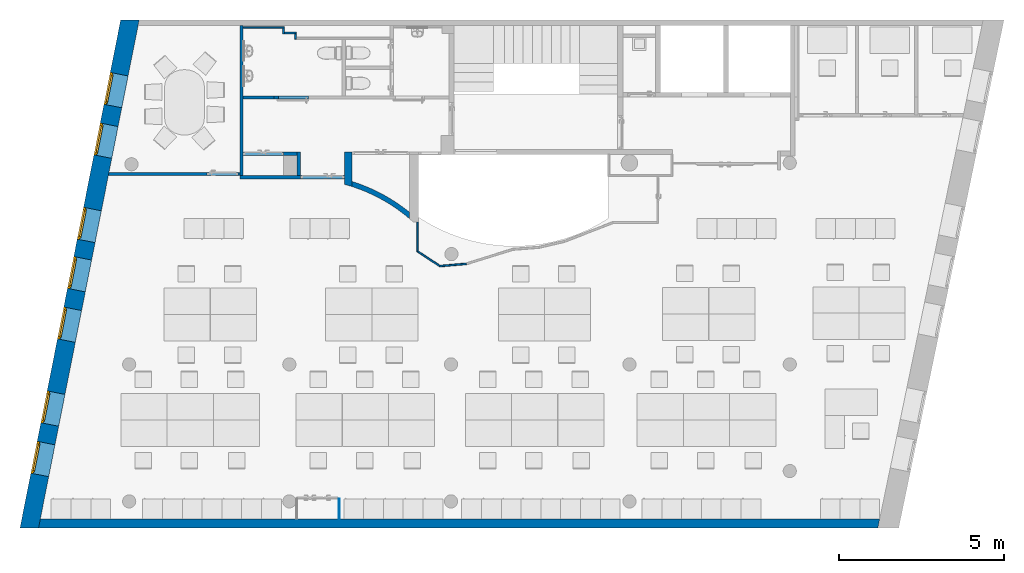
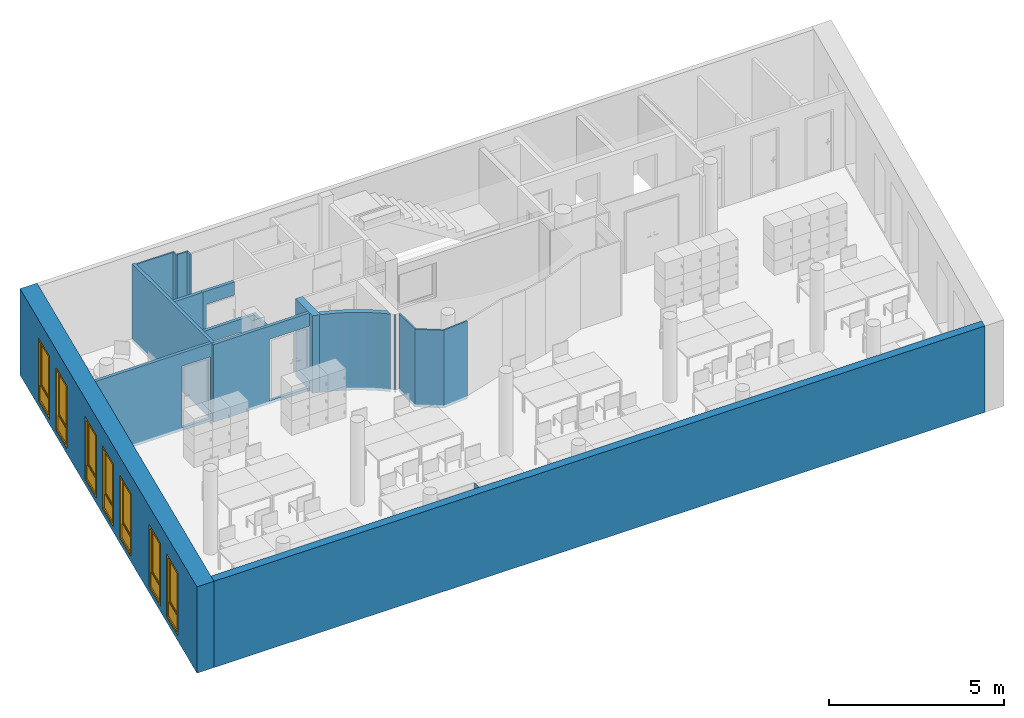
"""IFC4 building model written with IfcOpenShell, lengths in metres."""

import ifcopenshell
import ifcopenshell.guid

model = None  # the IFC model being written
_history = None  # IfcOwnerHistory: only IFC2X3 demands one
_inside = {}  # id of a spatial element -> (the spatial element, [elements in it])
_under = {}  # id of a project, library or spatial element -> (it, [spatial elements below it])
_declared = {}  # id of a project -> (the project, [libraries it declares])
_typed = {}  # id of a type object -> (the type object, [elements of that type])
_made_of = {}  # id of a material, layer set ... -> (it, [elements and type objects made of it])


def new_model(schema):
    """Start an empty IFC model of exactly this schema.

    Asked for "IFC4X3", IfcOpenShell would pick the latest addendum, in which some entities
    have other attributes; the version numbers below select the first issue.
    IFC2X3 requires an IfcOwnerHistory on every rooted entity: one is made here for all.
    """
    global model, _history
    if schema == "IFC4X3":
        model = ifcopenshell.file(schema_version=(4, 3, 0, 0))
    else:
        model = ifcopenshell.file(schema=schema)
    _inside.clear()
    _under.clear()
    _declared.clear()
    _typed.clear()
    _made_of.clear()
    _history = None
    if model.schema == "IFC2X3":
        org = make("IfcOrganization", Name="unknown")
        user = make(
            "IfcPersonAndOrganization",
            ThePerson=make("IfcPerson", FamilyName="unknown"),
            TheOrganization=org,
        )
        app = make(
            "IfcApplication",
            ApplicationDeveloper=org,
            Version="unknown",
            ApplicationFullName="unknown",
            ApplicationIdentifier="unknown",
        )
        _history = make(
            "IfcOwnerHistory",
            OwningUser=user,
            OwningApplication=app,
            ChangeAction="ADDED",
            CreationDate=0,
        )
    return model


def make(cls, **values):
    """One entity of the class cls with the attributes given. An attribute that is None is left unset."""
    return model.create_entity(
        cls, **{name: value for name, value in values.items() if value is not None}
    )


def entity(cls, *values):
    """Any entity or typed value of the class cls, its attributes in the order of the schema. None: left unset."""
    e = model.create_entity(cls)
    for i, value in enumerate(values):
        if value is not None:
            e[i] = value
    return e


def rooted(cls, **values):
    """An entity with a GlobalId (a new one), such as an element, a storey or a relation."""
    return make(cls, GlobalId=ifcopenshell.guid.new(), OwnerHistory=_history, **values)


def si_unit(unit_type, name, prefix=None):
    """IfcSIUnit, for example si_unit("LENGTHUNIT", "METRE", prefix="MILLI")."""
    return make("IfcSIUnit", UnitType=unit_type, Prefix=prefix, Name=name)


def converted_unit(unit_type, name, factor, base, dimensions=None, offset=None):
    """IfcConversionBasedUnit, such as the inch: factor (a typed value) times the base unit."""
    return make(
        "IfcConversionBasedUnit"
        if offset is None
        else "IfcConversionBasedUnitWithOffset",
        ConversionOffset=offset,
        Dimensions=None
        if dimensions is None
        else entity("IfcDimensionalExponents", *dimensions),
        UnitType=unit_type,
        Name=name,
        ConversionFactor=make(
            "IfcMeasureWithUnit", ValueComponent=factor, UnitComponent=base
        ),
    )


def derived_unit(unit_type, elements):
    """IfcDerivedUnit: a product of units, each with its exponent."""
    return make(
        "IfcDerivedUnit",
        Elements=[
            make("IfcDerivedUnitElement", Unit=unit, Exponent=power)
            for unit, power in elements
        ],
        UnitType=unit_type,
    )


def assignment(units):
    """IfcUnitAssignment: the units of a project."""
    return None if units is None else make("IfcUnitAssignment", Units=units)


def point(xyz):
    """IfcCartesianPoint."""
    return None if xyz is None else make("IfcCartesianPoint", Coordinates=xyz)


def direction(xyz):
    """IfcDirection."""
    return None if xyz is None else make("IfcDirection", DirectionRatios=xyz)


def frame(location, z_axis=None, x_axis=None):
    """IfcAxis2Placement3D, a coordinate frame: its origin and axes. An axis left out is left unset."""
    return make(
        "IfcAxis2Placement3D",
        Location=point(location),
        Axis=direction(z_axis),
        RefDirection=direction(x_axis),
    )


def frame_2d(location, x_axis=None):
    """IfcAxis2Placement2D, a coordinate frame in the plane: its origin and x axis."""
    return make(
        "IfcAxis2Placement2D", Location=point(location), RefDirection=direction(x_axis)
    )


def origin():
    """The frame at (0, 0, 0) with its axes left unset."""
    return frame((0.0, 0.0, 0.0))


def origin_with_axes():
    """The frame at (0, 0, 0) with the z axis (0, 0, 1) and the x axis (1, 0, 0) written out."""
    return frame((0.0, 0.0, 0.0), z_axis=(0.0, 0.0, 1.0), x_axis=(1.0, 0.0, 0.0))


def place(relative_to, where):
    """IfcLocalPlacement: puts the frame where relative to a parent placement (None: the world)."""
    return make(
        "IfcLocalPlacement", PlacementRelTo=relative_to, RelativePlacement=where
    )


def context(
    kind, dimensions, precision=None, world=None, true_north=None, identifier=None
):
    """IfcGeometricRepresentationContext, for example the 3D "Model" context."""
    return make(
        "IfcGeometricRepresentationContext",
        ContextIdentifier=identifier,
        ContextType=kind,
        CoordinateSpaceDimension=dimensions,
        Precision=precision,
        WorldCoordinateSystem=world,
        TrueNorth=true_north,
    )


def subcontext(parent, identifier, kind, view, scale=None):
    """IfcGeometricRepresentationSubContext, for example "Body" below "Model"."""
    return make(
        "IfcGeometricRepresentationSubContext",
        ContextIdentifier=identifier,
        ContextType=kind,
        ParentContext=parent,
        TargetScale=scale,
        TargetView=view,
    )


def project(units=None, contexts=None):
    """IfcProject with its units and contexts."""
    return rooted(
        "IfcProject",
        Name="project",
        RepresentationContexts=contexts,
        UnitsInContext=assignment(units),
    )


def spatial(cls, under=None, at=None, **own):
    """A site, building, storey or space (cls), placed at a placement, below another one or the project."""
    s = rooted(cls, ObjectPlacement=at, **own)
    if under is not None:
        _under.setdefault(under.id(), (under, []))[1].append(s)
    return s


def polyline(points):
    """IfcPolyline through the points."""
    return make("IfcPolyline", Points=[point(p) for p in points])


def profile(cls, at=None, kind="AREA", **sizes):
    """A parametric profile (cls). Its sizes go by their IFC names, for example OverallWidth=200.0."""
    return make(cls, ProfileType=kind, Position=at, **sizes)


def rectangle(**sizes):
    """IfcRectangleProfileDef."""
    return profile("IfcRectangleProfileDef", **sizes)


def outline(outer, holes=None, kind="AREA"):
    """IfcArbitraryClosedProfileDef: a profile drawn as a closed curve; with holes, ...WithVoids."""
    if holes is None:
        return make("IfcArbitraryClosedProfileDef", ProfileType=kind, OuterCurve=outer)
    return make(
        "IfcArbitraryProfileDefWithVoids",
        ProfileType=kind,
        OuterCurve=outer,
        InnerCurves=holes,
    )


def extrude(swept, where, along, depth):
    """IfcExtrudedAreaSolid: the profile swept, set in the frame where, extruded along a direction by depth."""
    return make(
        "IfcExtrudedAreaSolid",
        SweptArea=swept,
        Position=where,
        ExtrudedDirection=direction(along),
        Depth=depth,
    )


def faces_of(points, faces, orient=None, outer=None):
    """IfcFace entities. A face is a list of loops; a loop is a list of indices into points, from 0.

    orient and outer hold one flag for each loop. By default every Orientation is true, the
    first loop of a face is its IfcFaceOuterBound and the others are IfcFaceBound.
    """
    made = []
    for i, loops in enumerate(faces):
        bounds = []
        for j, loop in enumerate(loops):
            is_outer = j == 0 if outer is None else outer[i][j]
            bounds.append(
                make(
                    "IfcFaceOuterBound" if is_outer else "IfcFaceBound",
                    Bound=make("IfcPolyLoop", Polygon=[points[k] for k in loop]),
                    Orientation=True if orient is None else orient[i][j],
                )
            )
        made.append(make("IfcFace", Bounds=bounds))
    return made


def closed_shell(faces, orient=None, outer=None):
    """The faces of one IfcClosedShell. faceted_brep and surface_model build it on their shared points."""
    return ("IfcClosedShell", faces, orient, outer)


def open_shell(faces, orient=None, outer=None):
    """The faces of one IfcOpenShell. surface_model builds it on its shared points."""
    return ("IfcOpenShell", faces, orient, outer)


def surface_model(cls, points, shells):
    """IfcFaceBasedSurfaceModel or IfcShellBasedSurfaceModel (cls): surfaces that need not close."""
    shared = [point(p) for p in points]
    made = [make(c, CfsFaces=faces_of(shared, fs, o, b)) for c, fs, o, b in shells]
    if cls == "IfcFaceBasedSurfaceModel":
        return make(cls, FbsmFaces=made)
    return make(cls, SbsmBoundary=made)


def shape(context_of_items, identifier, shape_type, items):
    """IfcShapeRepresentation: the items that make up one representation, for example the "Body"."""
    return make(
        "IfcShapeRepresentation",
        ContextOfItems=context_of_items,
        RepresentationIdentifier=identifier,
        RepresentationType=shape_type,
        Items=items,
    )


def source(mapping_origin, context_of_items, identifier, shape_type, items):
    """IfcRepresentationMap: a shape defined once, which mapped items show again and again."""
    return make(
        "IfcRepresentationMap",
        MappingOrigin=mapping_origin,
        MappedRepresentation=shape(context_of_items, identifier, shape_type, items),
    )


def transform(
    local_origin,
    x_axis=None,
    y_axis=None,
    z_axis=None,
    scale=None,
    scale2=None,
    scale3=None,
    uniform=True,
):
    """IfcCartesianTransformationOperator3D, or its non-uniform kind. x_axis, y_axis, z_axis: its Axis1, 2, 3."""
    if uniform:
        return make(
            "IfcCartesianTransformationOperator3D",
            Axis1=direction(x_axis),
            Axis2=direction(y_axis),
            LocalOrigin=point(local_origin),
            Scale=scale,
            Axis3=direction(z_axis),
        )
    return make(
        "IfcCartesianTransformationOperator3DnonUniform",
        Axis1=direction(x_axis),
        Axis2=direction(y_axis),
        LocalOrigin=point(local_origin),
        Scale=scale,
        Axis3=direction(z_axis),
        Scale2=scale2,
        Scale3=scale3,
    )


def mapped(mapping_source, mapping_target):
    """IfcMappedItem: shows the shape of a source again, moved by a transform."""
    return make(
        "IfcMappedItem", MappingSource=mapping_source, MappingTarget=mapping_target
    )


def material(Name=None, Category=None):
    """IfcMaterial."""
    return make("IfcMaterial", Name=Name, Category=Category)


def layer(
    of_material, thickness, ventilated=None, Name=None, Category=None, Priority=None
):
    """IfcMaterialLayer: one layer of a wall or slab, of a material (None: an air gap)."""
    return make(
        "IfcMaterialLayer",
        Material=of_material,
        LayerThickness=thickness,
        IsVentilated=ventilated,
        Name=Name,
        Category=Category,
        Priority=Priority,
    )


def layer_set(layers, Name=None):
    """IfcMaterialLayerSet."""
    return make("IfcMaterialLayerSet", MaterialLayers=layers, LayerSetName=Name)


def layer_usage(for_layer_set, set_direction, sense, offset, extent=None):
    """IfcMaterialLayerSetUsage: how a layer set lies in its element."""
    return make(
        "IfcMaterialLayerSetUsage",
        ForLayerSet=for_layer_set,
        LayerSetDirection=set_direction,
        DirectionSense=sense,
        OffsetFromReferenceLine=offset,
        ReferenceExtent=extent,
    )


def made_of(thing, what):
    """Note that an element or type object is made of a material, layer set ...; save() writes the relation."""
    if what is not None:
        _made_of.setdefault(what.id(), (what, []))[1].append(thing)
    return thing


def type_object(cls, material=None, **own):
    """A type object (cls), such as IfcWallType, which elements share."""
    return made_of(rooted(cls, **own), material)


def element(
    cls,
    number,
    at=None,
    inside=None,
    cuts=None,
    type_object=None,
    material=None,
    context=None,
    identifier="Body",
    shape_type=None,
    held_by="IfcProductDefinitionShape",
    body=None,
    shapes=None,
    **own,
):
    """One element of the class cls, such as IfcWall. Its Tag is "e" and its number.

    at: its placement. inside: the storey or other place that contains it. cuts: it is an
    opening in that element (IfcRelVoidsElement). A single representation is given by context,
    identifier, shape_type and body (its items); several are given by shapes. held_by: the class
    of the entity that holds the representations. save() writes the other relations.
    """
    e = rooted(cls, Tag="e%d" % number, ObjectPlacement=at, **own)
    if body is not None:
        shapes = [shape(context, identifier, shape_type, body)]
    if shapes is not None:
        e.Representation = make(held_by, Representations=shapes)
    if inside is not None:
        _inside.setdefault(inside.id(), (inside, []))[1].append(e)
    if cuts is not None:
        rooted(
            "IfcRelVoidsElement", RelatingBuildingElement=cuts, RelatedOpeningElement=e
        )
    if type_object is not None:
        _typed.setdefault(type_object.id(), (type_object, []))[1].append(e)
    return made_of(e, material)


def fill(opening, filler):
    """IfcRelFillsElement: the door or window that sits in an opening."""
    return rooted(
        "IfcRelFillsElement",
        RelatingOpeningElement=opening,
        RelatedBuildingElement=filler,
    )


def aggregate(whole, parts):
    """IfcRelAggregates: a whole, such as a stair, and the parts it consists of."""
    return rooted("IfcRelAggregates", RelatingObject=whole, RelatedObjects=parts)


def save(model, path):
    """Write the relations noted so far, then the file.

    IfcRelAggregates (storeys below a building ...), IfcRelContainedInSpatialStructure (elements
    in a storey), IfcRelDefinesByType, IfcRelAssociatesMaterial and IfcRelDeclares: one each for
    every whole, place, type object, material and project.
    """
    for whole, parts in _under.values():
        aggregate(whole, parts)
    for where, things in _inside.values():
        rooted(
            "IfcRelContainedInSpatialStructure",
            RelatedElements=things,
            RelatingStructure=where,
        )
    for kind, things in _typed.values():
        rooted("IfcRelDefinesByType", RelatedObjects=things, RelatingType=kind)
    for what, things in _made_of.values():
        rooted("IfcRelAssociatesMaterial", RelatedObjects=things, RelatingMaterial=what)
    for by, libraries in _declared.values():
        rooted("IfcRelDeclares", RelatingContext=by, RelatedDefinitions=libraries)
    model.write(path)


model = new_model("IFC4")

# Units and contexts
model_context = context("Model", 3, precision=1e-05, world=origin())
body_context = subcontext(model_context, "Body", "Model", "MODEL_VIEW")
ifc_project = project(units=[si_unit("LENGTHUNIT", "METRE"), si_unit("AREAUNIT", "SQUARE_METRE"), si_unit("VOLUMEUNIT", "CUBIC_METRE"), si_unit("MASSUNIT", "GRAM", prefix="KILO"), converted_unit("PLANEANGLEUNIT", "DEGREE", entity("IfcPlaneAngleMeasure", 0.0174532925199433), si_unit("PLANEANGLEUNIT", "RADIAN"), dimensions=[0, 0, 0, 0, 0, 0, 0]), derived_unit("THERMALTRANSMITTANCEUNIT", [(si_unit("POWERUNIT", "WATT"), 1), (si_unit("THERMODYNAMICTEMPERATUREUNIT", "KELVIN"), -1), (si_unit("LENGTHUNIT", "METRE"), -2)]), derived_unit("VOLUMETRICFLOWRATEUNIT", [(si_unit("LENGTHUNIT", "METRE"), 3), (converted_unit("TIMEUNIT", "hour", entity("IfcTimeMeasure", 3600.0), si_unit("TIMEUNIT", "SECOND"), dimensions=[0, 0, 1, 0, 0, 0, 0]), -1), (si_unit("LENGTHUNIT", "METRE"), -1)])], contexts=[model_context])

# Building, storeys
building_placement = place(None, origin())
building = spatial("IfcBuilding", under=ifc_project, at=building_placement, Name="HABITATGE PLURIFAMILIAR", CompositionType="ELEMENT")
storey_1_placement = place(building_placement, frame((0.0, 0.0, 15.28)))
storey_1 = spatial("IfcBuildingStorey", under=building, at=storey_1_placement, Name="PLANTA QUARTA", CompositionType="ELEMENT", Elevation=15.28)
storey_2_placement = place(storey_1_placement, frame((0.0, 0.0, 12.27)))
storey_2 = spatial("IfcBuildingStorey", under=storey_1, at=storey_2_placement, Name="NOU", CompositionType="PARTIAL")

# Walls
ifc_material_1 = material()
ifc_layer_1 = layer(ifc_material_1, 0.1)
ifc_layer_set_1 = layer_set([ifc_layer_1])
ifc_layer_usage_1 = layer_usage(ifc_layer_set_1, "AXIS2", "POSITIVE", 0.0)
wall_1_placement = place(storey_2_placement, frame((404.436984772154, 23.5194598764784, -12.37), z_axis=(0.0, 0.0, 1.0), x_axis=(0.0, 1.0, 0.0)))
element("IfcWall", 1, at=wall_1_placement, inside=storey_2, material=ifc_layer_usage_1, Name="Evans P4", context=body_context, shape_type="SweptSolid", body=[
    extrude(rectangle(XDim=4.54878802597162, YDim=0.1, at=frame_2d((2.27439401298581, 0.05), x_axis=(1.0, 0.0))), origin_with_axes(), (0.0, 0.0, 1.0), 2.71),
])
ifc_material_2 = material()
ifc_layer_2 = layer(ifc_material_2, 0.100000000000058)
ifc_layer_set_2 = layer_set([ifc_layer_2])
ifc_layer_usage_2 = layer_usage(ifc_layer_set_2, "AXIS2", "POSITIVE", 0.0)
wall_2_placement = place(storey_2_placement, frame((406.176984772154, 23.5194598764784, -12.37), z_axis=(0.0, 0.0, 1.0), x_axis=(0.0, 1.0, 0.0)))
element("IfcWall", 2, at=wall_2_placement, inside=storey_2, material=ifc_layer_usage_2, Name="Evans P4", context=body_context, shape_type="SweptSolid", body=[
    extrude(rectangle(XDim=0.709999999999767, YDim=0.100000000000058, at=frame_2d((0.354999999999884, 0.0500000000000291), x_axis=(1.0, 0.0))), origin_with_axes(), (0.0, 0.0, 1.0), 2.71),
])

# Wall, opening
ifc_material_3 = material()
ifc_layer_3 = layer(ifc_material_3, 0.1)
ifc_layer_set_3 = layer_set([ifc_layer_3])
ifc_layer_usage_3 = layer_usage(ifc_layer_set_3, "AXIS2", "POSITIVE", 0.0)
wall_3_placement = place(storey_2_placement, frame((404.336984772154, 23.4194598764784, -12.37)))
wall_3 = element("IfcWall", 3, at=wall_3_placement, inside=storey_2, material=ifc_layer_usage_3, Name="Evans P4", context=body_context, shape_type="SweptSolid", body=[
    extrude(rectangle(XDim=3.16904787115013, YDim=0.1, at=frame_2d((1.58452393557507, 0.05), x_axis=(1.0, 0.0))), origin_with_axes(), (0.0, 0.0, 1.0), 2.71),
])
opening_1_placement = place(wall_3_placement, frame((1.84, 0.0, 0.1), z_axis=(0.0, 1.0, 0.0), x_axis=(0.0, 0.0, 1.0)))
element("IfcOpeningElement", 4, at=opening_1_placement, cuts=wall_3, Name="Vano porta P4", ObjectType="Opening", context=body_context, shape_type="SweptSolid", body=[
    extrude(outline(polyline([(2.15, 1.32904787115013), (2.15, 0.0), (0.0, 0.0), (0.0, 1.32904787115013), (2.15, 1.32904787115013)])), origin_with_axes(), (0.0, 0.0, 1.0), 0.1),
])

# Walls
ifc_material_4 = material()
ifc_layer_4 = layer(ifc_material_4, 0.05)
ifc_layer_set_4 = layer_set([ifc_layer_4])
ifc_layer_usage_4 = layer_usage(ifc_layer_set_4, "AXIS2", "POSITIVE", 0.0)
wall_4_placement = place(storey_2_placement, frame((405.996984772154, 27.8094598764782, -12.37), z_axis=(0.0, 0.0, 1.0), x_axis=(0.0, -1.0, 0.0)))
element("IfcWall", 5, at=wall_4_placement, inside=storey_2, material=ifc_layer_usage_4, Name="Evans P4", context=body_context, shape_type="SweptSolid", body=[
    extrude(rectangle(XDim=0.16, YDim=0.05, at=frame_2d((0.08, 0.025), x_axis=(1.0, 0.0))), origin_with_axes(), (0.0, 0.0, 1.0), 2.71),
])
ifc_material_5 = material()
ifc_layer_5 = layer(ifc_material_5, 0.05)
ifc_layer_set_5 = layer_set([ifc_layer_5])
ifc_layer_usage_5 = layer_usage(ifc_layer_set_5, "AXIS2", "POSITIVE", 0.0)
wall_5_placement = place(storey_2_placement, frame((405.686984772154, 27.8094598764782, -12.37)))
element("IfcWall", 6, at=wall_5_placement, inside=storey_2, material=ifc_layer_usage_5, Name="Evans P4", context=body_context, shape_type="SweptSolid", body=[
    extrude(rectangle(XDim=0.36, YDim=0.05, at=frame_2d((0.18, 0.025), x_axis=(1.0, 0.0))), origin_with_axes(), (0.0, 0.0, 1.0), 2.71),
])
ifc_material_6 = material()
ifc_layer_6 = layer(ifc_material_6, 0.05)
ifc_layer_set_6 = layer_set([ifc_layer_6])
ifc_layer_usage_6 = layer_usage(ifc_layer_set_6, "AXIS2", "POSITIVE", 0.0)
wall_6_placement = place(storey_2_placement, frame((405.636984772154, 27.9794598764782, -12.37), z_axis=(0.0, 0.0, 1.0), x_axis=(0.0, -1.0, 0.0)))
element("IfcWall", 7, at=wall_6_placement, inside=storey_2, material=ifc_layer_usage_6, Name="Evans P4", context=body_context, shape_type="SweptSolid", body=[
    extrude(rectangle(XDim=0.17, YDim=0.05, at=frame_2d((0.085, 0.025), x_axis=(1.0, 0.0))), origin_with_axes(), (0.0, 0.0, 1.0), 2.71),
])
ifc_material_7 = material()
ifc_layer_7 = layer(ifc_material_7, 0.05)
ifc_layer_set_7 = layer_set([ifc_layer_7])
ifc_layer_usage_7 = layer_usage(ifc_layer_set_7, "AXIS2", "POSITIVE", 0.0)
wall_7_placement = place(storey_2_placement, frame((404.436984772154, 27.9794598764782, -12.37)))
element("IfcWall", 8, at=wall_7_placement, inside=storey_2, material=ifc_layer_usage_7, Name="Evans P4", context=body_context, shape_type="SweptSolid", body=[
    extrude(rectangle(XDim=1.25, YDim=0.05, at=frame_2d((0.625, 0.025), x_axis=(1.0, 0.0))), origin_with_axes(), (0.0, 0.0, 1.0), 2.71),
])

# Wall, opening
ifc_material_8 = material()
ifc_layer_8 = layer(ifc_material_8, 0.1)
ifc_layer_set_8 = layer_set([ifc_layer_8])
ifc_layer_usage_8 = layer_usage(ifc_layer_set_8, "AXIS2", "POSITIVE", 0.0)
wall_8_placement = place(storey_2_placement, frame((406.076984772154, 24.2294598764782, -12.37), z_axis=(0.0, 0.0, 1.0), x_axis=(-1.0, 0.0, 0.0)))
wall_8 = element("IfcWall", 9, at=wall_8_placement, inside=storey_2, material=ifc_layer_usage_8, Name="Evans P4", context=body_context, shape_type="SweptSolid", body=[
    extrude(rectangle(XDim=1.63999999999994, YDim=0.1, at=frame_2d((0.819999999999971, 0.05), x_axis=(1.0, 0.0))), origin_with_axes(), (0.0, 0.0, 1.0), 2.71),
])
opening_2_placement = place(wall_8_placement, frame((1.63999999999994, 0.1, 0.1), z_axis=(0.0, -1.0, 0.0), x_axis=(0.0, 0.0, 1.0)))
element("IfcOpeningElement", 10, at=opening_2_placement, cuts=wall_8, Name="Vano porta P4", ObjectType="Opening", context=body_context, shape_type="SweptSolid", body=[
    extrude(outline(polyline([(2.15, 1.22999999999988), (2.15, 0.0), (0.0, 0.0), (0.0, 1.22999999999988), (2.15, 1.22999999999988)])), origin_with_axes(), (0.0, 0.0, 1.0), 0.1),
])

# Walls
wall_9_placement = place(storey_2_placement, frame((406.15894288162, 18.3102468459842, -12.37)))
element("IfcWall", 11, at=wall_9_placement, inside=storey_2, Name="Evans P4", context=body_context, shape_type="SweptSolid", body=[
    extrude(outline(polyline([(1.77578399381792, 0.0), (1.77578399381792, 0.195883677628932), (1.74125735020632, 0.224880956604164), (1.52091315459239, 0.391074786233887), (1.29217302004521, 0.54550892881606), (1.05566390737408, 0.687760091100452), (0.812034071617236, 0.817438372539), (0.561951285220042, 0.934188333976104), (0.306101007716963, 1.03768997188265), (0.04518450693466, 1.12765959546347), (0.0357840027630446, 1.13035963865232), (0.0357840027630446, 0.9742949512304), (0.0, 0.984572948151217), (0.253489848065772, 0.897164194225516), (0.502057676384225, 0.796608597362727), (0.745022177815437, 0.683181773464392), (0.981717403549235, 0.557194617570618), (1.21149458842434, 0.418992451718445), (1.43372392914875, 0.268954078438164), (1.64779631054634, 0.107490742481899), (1.77578399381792, 0.0)])), frame((1.54225789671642, 3.89932480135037, 0.0), z_axis=(0.0, 0.0, 1.0), x_axis=(1.0, 0.0, 0.0)), (0.0, 0.0, 1.0), 2.71),
    extrude(outline(polyline([(0.0, 0.0344852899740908), (0.0369482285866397, 0.0), (0.0387224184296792, 0.00196418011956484), (0.0, 0.0344852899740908)])), frame((3.39538287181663, 3.79988451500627, 0.0), z_axis=(0.0, 0.0, 1.0), x_axis=(1.0, 0.0, 0.0)), (0.0, 0.0, 1.0), 2.71),
])
ifc_material_9 = material()
ifc_layer_9 = layer(ifc_material_9, 0.05)
ifc_layer_set_9 = layer_set([ifc_layer_9])
ifc_layer_usage_9 = layer_usage(ifc_layer_set_9, "AXIS2", "POSITIVE", 0.0)
wall_10_placement = place(storey_2_placement, frame((409.746984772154, 21.2364835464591, -12.37), z_axis=(0.0, 0.0, 1.0), x_axis=(0.0, 1.0, 0.0)))
element("IfcWall", 12, at=wall_10_placement, inside=storey_2, material=ifc_layer_usage_9, Name="Mampara P4", context=body_context, shape_type="SweptSolid", body=[
    extrude(outline(polyline([(0.0268577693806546, -0.05), (0.899999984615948, -0.05), (0.899999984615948, 0.0), (0.0, 0.0), (0.0268577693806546, -0.05)])), frame((-0.0268577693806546, 0.05, 0.0), z_axis=(0.0, 0.0, 1.0), x_axis=(1.0, 0.0, 0.0)), (0.0, 0.0, 1.0), 2.71),
])
ifc_material_10 = material()
ifc_layer_10 = layer(ifc_material_10, 0.0499999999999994)
ifc_layer_set_10 = layer_set([ifc_layer_10])
ifc_layer_usage_10 = layer_usage(ifc_layer_set_10, "AXIS2", "POSITIVE", 0.0)
wall_11_placement = place(storey_2_placement, frame((410.386395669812, 20.7494598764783, -12.37), z_axis=(0.0, 0.0, 1.0), x_axis=(0.996349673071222, 0.0853658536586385, 0.0)))
element("IfcWall", 13, at=wall_11_placement, inside=storey_2, material=ifc_layer_usage_10, Name="Mampara P4", context=body_context, shape_type="SweptSolid", body=[
    extrude(outline(polyline([(0.0, 0.0), (0.820006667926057, 0.0), (0.814575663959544, 0.0499999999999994), (0.0175191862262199, 0.049999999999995), (0.0, 0.0)])), origin_with_axes(), (0.0, 0.0, 1.0), 2.71),
])
ifc_material_11 = material()
ifc_layer_11 = layer(ifc_material_11, 0.0500000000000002)
ifc_layer_set_11 = layer_set([ifc_layer_11])
ifc_layer_usage_11 = layer_usage(ifc_layer_set_11, "AXIS2", "POSITIVE", 0.0)
wall_12_placement = place(storey_2_placement, frame((409.696984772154, 21.2096257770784, -12.37), z_axis=(0.0, 0.0, 1.0), x_axis=(0.831739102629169, -0.555166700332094, 0.0)))
element("IfcWall", 14, at=wall_12_placement, inside=storey_2, material=ifc_layer_usage_11, Name="Mampara P4", context=body_context, shape_type="SweptSolid", body=[
    extrude(outline(polyline([(-0.255468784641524, 0.3827379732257), (0.573410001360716, 0.3827379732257), (0.555890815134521, 0.4327379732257), (-0.228844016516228, 0.432737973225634), (-0.255468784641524, 0.3827379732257)])), frame((0.255468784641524, -0.3827379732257, 0.0), z_axis=(0.0, 0.0, 1.0), x_axis=(1.0, 0.0, 0.0)), (0.0, 0.0, 1.0), 2.71),
])
ifc_material_12 = material()
ifc_layer_12 = layer(ifc_material_12, 0.1)
ifc_layer_set_12 = layer_set([ifc_layer_12])
ifc_layer_usage_12 = layer_usage(ifc_layer_set_12, "AXIS2", "POSITIVE", 0.0)
wall_13_placement = place(storey_2_placement, frame((404.436984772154, 25.8294598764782, -12.37)))
element("IfcWall", 15, at=wall_13_placement, inside=storey_2, material=ifc_layer_usage_12, Name="Evans P4", context=body_context, shape_type="SweptSolid", body=[
    extrude(rectangle(XDim=0.936129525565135, YDim=0.1, at=frame_2d((0.468064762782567, 0.05), x_axis=(1.0, 0.0))), origin_with_axes(), (0.0, 0.0, 1.0), 2.71),
])
ifc_material_13 = material()
ifc_layer_13 = layer(ifc_material_13, 0.23)
ifc_layer_set_13 = layer_set([ifc_layer_13])
ifc_layer_usage_13 = layer_usage(ifc_layer_set_13, "AXIS2", "POSITIVE", 0.0)
wall_14_placement = place(storey_2_placement, frame((407.736984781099, 23.183866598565, -12.37), z_axis=(0.0, 0.0, 1.0), x_axis=(0.0, 1.0, 0.0)))
element("IfcWall", 16, at=wall_14_placement, inside=storey_2, material=ifc_layer_usage_13, Name="Evans P4", context=body_context, shape_type="SweptSolid", body=[
    extrude(outline(polyline([(0.0, -0.23), (1.0455932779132, -0.23), (1.0455932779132, 0.0), (0.0660613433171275, 0.0), (0.0, -0.23)])), frame((0.0, 0.23, 0.0), z_axis=(0.0, 0.0, 1.0), x_axis=(1.0, 0.0, 0.0)), (0.0, 0.0, 1.0), 2.71),
])
ifc_material_14 = material()
ifc_layer_14 = layer(ifc_material_14, 0.27)
ifc_layer_set_14 = layer_set([ifc_layer_14])
ifc_layer_usage_14 = layer_usage(ifc_layer_set_14, "AXIS2", "POSITIVE", 0.0)
wall_15_placement = place(storey_2_placement, frame((398.241734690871, 12.8406121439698, -12.37)))
element("IfcWall", 17, at=wall_15_placement, inside=storey_2, material=ifc_layer_usage_14, Name="Mur P4", context=body_context, shape_type="SweptSolid", body=[
    extrude(outline(polyline([(0.0, 0.0), (25.4157474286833, 0.0), (25.4717020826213, 0.27), (0.0534940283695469, 0.27), (0.0, 0.0)])), origin_with_axes(), (0.0, 0.0, 1.0), 3.01),
])

# Wall, openings, doors
ifc_material_15 = material()
ifc_layer_15 = layer(ifc_material_15, 0.549996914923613)
ifc_layer_set_15 = layer_set([ifc_layer_15])
ifc_layer_usage_15 = layer_usage(ifc_layer_set_15, "AXIS2", "POSITIVE", 0.0)
wall_16_placement = place(storey_2_placement, frame((400.729735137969, 28.22824790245, -12.37), z_axis=(0.0, 0.0, 1.0), x_axis=(-0.194348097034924, -0.98093262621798, 0.0)))
wall_16 = element("IfcWall", 18, at=wall_16_placement, inside=storey_2, material=ifc_layer_usage_15, Name="Façana nord-oest P4", context=body_context, shape_type="SweptSolid", body=[
    extrude(outline(polyline([(-15.523630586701, -1.98766597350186e-07), (0.0, 0.0), (-0.108968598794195, 0.549996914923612), (-15.7957098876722, 0.549999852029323), (-15.6867407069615, 0.0), (-15.523630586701, -1.98766597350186e-07)])), frame((15.6867407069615, 0.0, 0.0), z_axis=(0.0, 0.0, 1.0), x_axis=(1.0, 0.0, 0.0)), (0.0, 0.0, 1.0), 3.01),
])
opening_3_placement = place(wall_16_placement, frame((1.61911502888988, -1.80123763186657e-07, 0.19), z_axis=(-1.28040885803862e-08, 1.0, 0.0), x_axis=(0.0, 0.0, 1.0)))
opening_3 = element("IfcOpeningElement", 19, at=opening_3_placement, cuts=wall_16, Name="Vano finestra P4", ObjectType="Opening", context=body_context, shape_type="SweptSolid", body=[
    extrude(outline(polyline([(2.19, 0.983523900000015), (2.19, 0.0), (0.0, 0.0), (0.0, 0.983523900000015), (2.19, 0.983523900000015)])), origin_with_axes(), (0.0, 0.0, 1.0), 0.54999970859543),
])
opening_4_placement = place(wall_16_placement, frame((11.4493641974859, -5.42559732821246e-08, 0.19), z_axis=(-1.28041107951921e-08, 1.0, 0.0), x_axis=(0.0, 0.0, 1.0)))
opening_4 = element("IfcOpeningElement", 20, at=opening_4_placement, cuts=wall_16, Name="Vano finestra P4", ObjectType="Opening", context=body_context, shape_type="SweptSolid", body=[
    extrude(outline(polyline([(2.19, 0.983524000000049), (2.19, 0.0), (0.0, 0.0), (0.0, 0.983524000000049), (2.19, 0.983524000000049)])), origin_with_axes(), (0.0, 0.0, 1.0), 0.549997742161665),
])
opening_5_placement = place(wall_16_placement, frame((5.78243662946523, -1.26816093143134e-07, 0.19), z_axis=(-1.28041125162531e-08, 1.0, 0.0), x_axis=(0.0, 0.0, 1.0)))
opening_5 = element("IfcOpeningElement", 21, at=opening_5_placement, cuts=wall_16, Name="Vano finestra P4", ObjectType="Opening", context=body_context, shape_type="SweptSolid", body=[
    extrude(outline(polyline([(2.19, 0.983524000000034), (2.19, 0.0), (0.0, 0.0), (0.0, 0.983524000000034), (2.19, 0.983524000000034)])), origin_with_axes(), (0.0, 0.0, 1.0), 0.54999887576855),
])
opening_6_placement = place(wall_16_placement, frame((8.86007217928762, -8.74095946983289e-08, 0.19), z_axis=(-1.28041152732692e-08, 1.0, 0.0), x_axis=(0.0, 0.0, 1.0)))
opening_6 = element("IfcOpeningElement", 22, at=opening_6_placement, cuts=wall_16, Name="Vano finestra P4", ObjectType="Opening", context=body_context, shape_type="SweptSolid", body=[
    extrude(outline(polyline([(2.19, 0.983524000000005), (2.19, 0.0), (0.0, 0.0), (0.0, 0.983524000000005), (2.19, 0.983524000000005)])), origin_with_axes(), (0.0, 0.0, 1.0), 0.549998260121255),
])
opening_7_placement = place(wall_16_placement, frame((7.30221261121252, -1.0735666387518e-07, 0.19), z_axis=(-1.28040617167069e-08, 1.0, 0.0), x_axis=(0.0, 0.0, 1.0)))
opening_7 = element("IfcOpeningElement", 23, at=opening_7_placement, cuts=wall_16, Name="Vano finestra P4", ObjectType="Opening", context=body_context, shape_type="SweptSolid", body=[
    extrude(outline(polyline([(2.19, 0.983524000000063), (2.19, 0.0), (0.0, 0.0), (0.0, 0.983524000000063), (2.19, 0.983524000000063)])), origin_with_axes(), (0.0, 0.0, 1.0), 0.549998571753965),
])
opening_8_placement = place(wall_16_placement, frame((3.18071577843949, -1.6012887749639e-07, 0.19), z_axis=(-1.28041243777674e-08, 1.0, 0.0), x_axis=(0.0, 0.0, 1.0)))
opening_8 = element("IfcOpeningElement", 24, at=opening_8_placement, cuts=wall_16, Name="Vano finestra P4", ObjectType="Opening", context=body_context, shape_type="SweptSolid", body=[
    extrude(outline(polyline([(2.19, 0.983524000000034), (2.19, 0.0), (0.0, 0.0), (0.0, 0.983524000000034), (2.19, 0.983524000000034)])), origin_with_axes(), (0.0, 0.0, 1.0), 0.549999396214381),
])
opening_9_placement = place(wall_16_placement, frame((13.007223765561, -3.43089031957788e-08, 0.19), z_axis=(-1.28041048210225e-08, 1.0, 0.0), x_axis=(0.0, 0.0, 1.0)))
opening_9 = element("IfcOpeningElement", 25, at=opening_9_placement, cuts=wall_16, Name="Vano finestra P4", ObjectType="Opening", context=body_context, shape_type="SweptSolid", body=[
    extrude(outline(polyline([(2.19, 0.983524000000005), (2.19, 0.0), (0.0, 0.0), (0.0, 0.983524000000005), (2.19, 0.983524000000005)])), origin_with_axes(), (0.0, 0.0, 1.0), 0.549997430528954),
])
door_type_1 = type_object("IfcDoorType", Name="Finestra P4", OperationType="NOTDEFINED", ParameterTakesPrecedence=False, PredefinedType="DOOR")
shared_shape = source(origin_with_axes(), body_context, "Body", "SurfaceModel", [
    surface_model("IfcShellBasedSurfaceModel", [(0.0, 0.0700000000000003, 2.19), (0.0, 0.07, 0.0), (0.07, 0.07, 0.0), (0.07, 0.0700000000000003, 2.19), (0.0, 0.0, 0.0), (0.0, 0.0, 2.19), (0.07, 0.0, 2.19), (0.07, 0.0, 0.0)], [closed_shell([[[0, 1, 2, 3]], [[4, 5, 6, 7]], [[1, 0, 5, 4]], [[2, 1, 4, 7]], [[3, 2, 7, 6]], [[0, 3, 6, 5]]], orient=[[False], [False], [False], [False], [False], [False]])]),
    surface_model("IfcShellBasedSurfaceModel", [(0.913524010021, 0.0700000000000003, 2.19), (0.913524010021, 0.07, 0.0), (0.983524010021, 0.07, 0.0), (0.983524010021, 0.0700000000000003, 2.19), (0.913524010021, 0.0, 0.0), (0.913524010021, 0.0, 2.19), (0.983524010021, 0.0, 2.19), (0.983524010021, 0.0, 0.0)], [closed_shell([[[0, 1, 2, 3]], [[4, 5, 6, 7]], [[1, 0, 5, 4]], [[2, 1, 4, 7]], [[3, 2, 7, 6]], [[0, 3, 6, 5]]], orient=[[False], [False], [False], [False], [False], [False]])]),
    surface_model("IfcShellBasedSurfaceModel", [(0.07, 0.07, 0.07), (0.07, 0.07, 0.0), (0.913524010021, 0.07, 0.0), (0.913524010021, 0.07, 0.07), (0.07, 0.0, 0.0), (0.07, 0.0, 0.07), (0.913524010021, 0.0, 0.07), (0.913524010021, 0.0, 0.0)], [closed_shell([[[0, 1, 2, 3]], [[4, 5, 6, 7]], [[1, 0, 5, 4]], [[2, 1, 4, 7]], [[3, 2, 7, 6]], [[0, 3, 6, 5]]], orient=[[False], [False], [False], [False], [False], [False]])]),
    surface_model("IfcShellBasedSurfaceModel", [(0.07, 0.0700000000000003, 2.19), (0.07, 0.0700000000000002, 2.12), (0.913524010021, 0.0700000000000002, 2.12), (0.913524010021, 0.0700000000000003, 2.19), (0.07, 0.0, 2.12), (0.07, 0.0, 2.19), (0.913524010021, 0.0, 2.19), (0.913524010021, 0.0, 2.12)], [closed_shell([[[0, 1, 2, 3]], [[4, 5, 6, 7]], [[1, 0, 5, 4]], [[2, 1, 4, 7]], [[3, 2, 7, 6]], [[0, 3, 6, 5]]], orient=[[False], [False], [False], [False], [False], [False]])]),
    surface_model("IfcShellBasedSurfaceModel", [(0.07, 0.035, 0.07), (0.913524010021, 0.035, 0.07), (0.913524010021, 0.0350000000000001, 0.57), (0.07, 0.0350000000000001, 0.57)], [open_shell([[[0, 1, 2, 3]]], orient=[[False]])]),
    surface_model("IfcShellBasedSurfaceModel", [(0.05, 0.1, 2.14), (0.05, 0.1, 0.551), (0.1, 0.1, 0.551), (0.1, 0.1, 2.14), (0.05, 0.0500000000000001, 0.551), (0.05, 0.0500000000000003, 2.14), (0.1, 0.0500000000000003, 2.14), (0.1, 0.0500000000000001, 0.551)], [closed_shell([[[0, 1, 2, 3]], [[4, 5, 6, 7]], [[1, 0, 5, 4]], [[2, 1, 4, 7]], [[3, 2, 7, 6]], [[0, 3, 6, 5]]], orient=[[False], [False], [False], [False], [False], [False]])]),
    surface_model("IfcShellBasedSurfaceModel", [(0.883524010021, 0.1, 2.14), (0.883524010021, 0.1, 0.551), (0.933524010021, 0.1, 0.551), (0.933524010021, 0.1, 2.14), (0.883524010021, 0.0500000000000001, 0.551), (0.883524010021, 0.0500000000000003, 2.14), (0.933524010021, 0.0500000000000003, 2.14), (0.933524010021, 0.0500000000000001, 0.551)], [closed_shell([[[0, 1, 2, 3]], [[4, 5, 6, 7]], [[1, 0, 5, 4]], [[2, 1, 4, 7]], [[3, 2, 7, 6]], [[0, 3, 6, 5]]], orient=[[False], [False], [False], [False], [False], [False]])]),
    surface_model("IfcShellBasedSurfaceModel", [(0.1, 0.1, 0.601), (0.1, 0.1, 0.551), (0.883524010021, 0.1, 0.551), (0.883524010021, 0.1, 0.601), (0.1, 0.0500000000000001, 0.551), (0.1, 0.0500000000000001, 0.601), (0.883524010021, 0.0500000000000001, 0.601), (0.883524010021, 0.0500000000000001, 0.551)], [closed_shell([[[0, 1, 2, 3]], [[4, 5, 6, 7]], [[1, 0, 5, 4]], [[2, 1, 4, 7]], [[3, 2, 7, 6]], [[0, 3, 6, 5]]], orient=[[False], [False], [False], [False], [False], [False]])]),
    surface_model("IfcShellBasedSurfaceModel", [(0.1, 0.1, 2.14), (0.1, 0.1, 2.09), (0.883524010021, 0.1, 2.09), (0.883524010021, 0.1, 2.14), (0.1, 0.0500000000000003, 2.09), (0.1, 0.0500000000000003, 2.14), (0.883524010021, 0.0500000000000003, 2.14), (0.883524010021, 0.0500000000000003, 2.09)], [closed_shell([[[0, 1, 2, 3]], [[4, 5, 6, 7]], [[1, 0, 5, 4]], [[2, 1, 4, 7]], [[3, 2, 7, 6]], [[0, 3, 6, 5]]], orient=[[False], [False], [False], [False], [False], [False]])]),
    surface_model("IfcShellBasedSurfaceModel", [(0.1, 0.0750000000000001, 0.601), (0.883524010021, 0.0750000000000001, 0.601), (0.883524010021, 0.0750000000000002, 2.09), (0.1, 0.0750000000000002, 2.09)], [open_shell([[[0, 1, 2, 3]]], orient=[[False]])]),
])
door_1_placement = place(opening_3_placement, frame((0.0, 0.0, 0.0), z_axis=(1.0, 0.0, 0.0), x_axis=(0.0, 1.00000000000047, 1.01946229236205e-13)))
door_1 = element("IfcDoor", 26, at=door_1_placement, inside=storey_2, type_object=door_type_1, Name="Finestra P4", OverallHeight=2.19, OverallWidth=0.98352, context=body_context, shape_type="MappedRepresentation", body=[
    mapped(shared_shape, transform((0.0, 0.0, 0.0), x_axis=(1.0, 0.0, 0.0), y_axis=(0.0, 1.0, 0.0), z_axis=(0.0, 0.0, 1.0), scale=1.00000000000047)),
])
fill(opening_3, door_1)
door_type_2 = type_object("IfcDoorType", Name="Finestra P4", OperationType="NOTDEFINED", ParameterTakesPrecedence=False, PredefinedType="DOOR")
door_2_placement = place(opening_4_placement, frame((0.0, 0.0, 0.0), z_axis=(1.0, 0.0, 0.0), x_axis=(0.0, 1.0, -4.72399896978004e-14)))
door_2 = element("IfcDoor", 27, at=door_2_placement, inside=storey_2, type_object=door_type_2, Name="Finestra P4", OverallHeight=2.19, OverallWidth=0.98352, context=body_context, shape_type="MappedRepresentation", body=[
    mapped(shared_shape, transform((0.0, 0.0, 0.0), x_axis=(1.0, 0.0, 0.0), y_axis=(0.0, 1.0, 0.0), z_axis=(0.0, 0.0, 1.0), scale=1.0)),
])
fill(opening_4, door_2)
door_type_3 = type_object("IfcDoorType", Name="Finestra P4", OperationType="NOTDEFINED", ParameterTakesPrecedence=False, PredefinedType="DOOR")
door_3_placement = place(opening_5_placement, frame((0.0, 0.0, 0.0), z_axis=(1.0, 0.0, 0.0), x_axis=(0.0, 1.0, -5.91748872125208e-14)))
door_3 = element("IfcDoor", 28, at=door_3_placement, inside=storey_2, type_object=door_type_3, Name="Finestra P4", OverallHeight=2.19, OverallWidth=0.98352, context=body_context, shape_type="MappedRepresentation", body=[
    mapped(shared_shape, transform((0.0, 0.0, 0.0), x_axis=(1.0, 0.0, 0.0), y_axis=(0.0, 1.0, 0.0), z_axis=(0.0, 0.0, 1.0), scale=1.0)),
])
fill(opening_5, door_3)
door_type_4 = type_object("IfcDoorType", Name="Finestra P4", OperationType="NOTDEFINED", ParameterTakesPrecedence=False, PredefinedType="DOOR")
door_4_placement = place(opening_6_placement, frame((0.0, 0.0, 0.0), z_axis=(1.0, 0.0, 0.0), x_axis=(0.0, 1.0, 4.50750547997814e-14)))
door_4 = element("IfcDoor", 29, at=door_4_placement, inside=storey_2, type_object=door_type_4, Name="Finestra P4", OverallHeight=2.19, OverallWidth=0.98352, context=body_context, shape_type="MappedRepresentation", body=[
    mapped(shared_shape, transform((0.0, 0.0, 0.0), x_axis=(1.0, 0.0, 0.0), y_axis=(0.0, 1.0, 0.0), z_axis=(0.0, 0.0, 1.0), scale=1.0)),
])
fill(opening_6, door_4)
door_type_5 = type_object("IfcDoorType", Name="Finestra P4", OperationType="NOTDEFINED", ParameterTakesPrecedence=False, PredefinedType="DOOR")
door_5_placement = place(opening_7_placement, frame((0.0, 0.0, 0.0), z_axis=(1.0, 0.0, 0.0), x_axis=(0.0, 0.999999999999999, 1.06636921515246e-13)))
door_5 = element("IfcDoor", 30, at=door_5_placement, inside=storey_2, type_object=door_type_5, Name="Finestra P4", OverallHeight=2.19, OverallWidth=0.98352, context=body_context, shape_type="MappedRepresentation", body=[
    mapped(shared_shape, transform((0.0, 0.0, 0.0), x_axis=(1.0, 0.0, 0.0), y_axis=(0.0, 1.0, 0.0), z_axis=(0.0, 0.0, 1.0), scale=0.999999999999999)),
])
fill(opening_7, door_5)
door_type_6 = type_object("IfcDoorType", Name="Finestra P4", OperationType="NOTDEFINED", ParameterTakesPrecedence=False, PredefinedType="DOOR")
door_6_placement = place(opening_8_placement, frame((0.0, 0.0, 0.0), z_axis=(1.0, 0.0, 0.0), x_axis=(0.0, 1.0, 2.63677968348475e-15)))
door_6 = element("IfcDoor", 31, at=door_6_placement, inside=storey_2, type_object=door_type_6, Name="Finestra P4", OverallHeight=2.19, OverallWidth=0.98352, context=body_context, shape_type="MappedRepresentation", body=[
    mapped(shared_shape, transform((0.0, 0.0, 0.0), x_axis=(1.0, 0.0, 0.0), y_axis=(0.0, 1.0, 0.0), z_axis=(0.0, 0.0, 1.0), scale=1.0)),
])
fill(opening_8, door_6)
door_type_7 = type_object("IfcDoorType", Name="Finestra P4", OperationType="NOTDEFINED", ParameterTakesPrecedence=False, PredefinedType="DOOR")
door_7_placement = place(opening_9_placement, frame((0.0, 0.0, 0.0), z_axis=(1.0, 0.0, 0.0), x_axis=(0.0, 1.0, -5.05984143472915e-14)))
door_7 = element("IfcDoor", 32, at=door_7_placement, inside=storey_2, type_object=door_type_7, Name="Finestra P4", OverallHeight=2.19, OverallWidth=0.98352, context=body_context, shape_type="MappedRepresentation", body=[
    mapped(shared_shape, transform((0.0, 0.0, 0.0), x_axis=(1.0, 0.0, 0.0), y_axis=(0.0, 1.0, 0.0), z_axis=(0.0, 0.0, 1.0), scale=1.0)),
])
fill(opening_9, door_7)

# Wall
ifc_material_16 = material()
ifc_layer_16 = layer(ifc_material_16, 0.025)
ifc_layer_set_16 = layer_set([ifc_layer_16])
ifc_layer_usage_16 = layer_usage(ifc_layer_set_16, "AXIS2", "POSITIVE", 0.0)
wall_17_placement = place(storey_2_placement, frame((407.361610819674, 13.1206121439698, -12.32), z_axis=(0.0, 0.0, 1.0), x_axis=(0.0, 1.0, 0.0)))
element("IfcWall", 33, at=wall_17_placement, inside=storey_2, material=ifc_layer_usage_16, Name="Evans PA", context=body_context, shape_type="SweptSolid", body=[
    extrude(rectangle(XDim=0.612524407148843, YDim=0.025, at=frame_2d((0.306262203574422, 0.0125), x_axis=(1.0, 0.0))), origin_with_axes(), (0.0, 0.0, 1.0), 2.66),
])

# Wall, opening
ifc_material_17 = material()
ifc_layer_17 = layer(ifc_material_17, 0.1)
ifc_layer_set_17 = layer_set([ifc_layer_17])
ifc_layer_usage_17 = layer_usage(ifc_layer_set_17, "AXIS2", "POSITIVE", 0.0)
wall_18_placement = place(storey_2_placement, frame((405.373114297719, 25.8294598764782, -12.37)))
wall_18 = element("IfcWall", 34, at=wall_18_placement, inside=storey_2, material=ifc_layer_usage_17, Name="Evans P4", context=body_context, shape_type="SweptSolid", body=[
    extrude(rectangle(XDim=1.04208327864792, YDim=0.1, at=frame_2d((0.521041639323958, 0.05), x_axis=(1.0, 0.0))), origin_with_axes(), (0.0, 0.0, 1.0), 2.71),
])
opening_10_placement = place(wall_18_placement, frame((1.04208327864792, 0.1, 0.1), z_axis=(0.0, -1.0, 0.0), x_axis=(0.0, 0.0, 1.0)))
element("IfcOpeningElement", 35, at=opening_10_placement, cuts=wall_18, Name="Vano porta P4", ObjectType="Opening", context=body_context, shape_type="SweptSolid", body=[
    extrude(outline(polyline([(2.15, 0.9), (2.15, 0.0), (0.0, 0.0), (0.0, 0.9), (2.15, 0.9)])), origin_with_axes(), (0.0, 0.0, 1.0), 0.1),
])

ifc_material_18 = material()
ifc_layer_18 = layer(ifc_material_18, 0.1)
ifc_layer_set_18 = layer_set([ifc_layer_18])
ifc_layer_usage_18 = layer_usage(ifc_layer_set_18, "AXIS2", "POSITIVE", 0.0)
wall_19_placement = place(storey_2_placement, frame((404.336984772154, 23.6146518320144, -12.37), z_axis=(0.0, 0.0, 1.0), x_axis=(-1.0, 0.0, 0.0)))
wall_19 = element("IfcWall", 36, at=wall_19_placement, inside=storey_2, material=ifc_layer_usage_18, Name="Mampara P4", context=body_context, shape_type="SweptSolid", body=[
    extrude(outline(polyline([(-3.98044496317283, -0.1), (-0.0198126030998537, -0.1), (0.0, 0.0), (-3.98044496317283, 0.0), (-3.98044496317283, -0.1)])), frame((3.98044496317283, 0.1, 0.0), z_axis=(0.0, 0.0, 1.0), x_axis=(1.0, 0.0, 0.0)), (0.0, 0.0, 1.0), 2.71),
])
opening_11_placement = place(wall_19_placement, frame((0.05, 0.0, 0.1), z_axis=(0.0, 1.0, 0.0), x_axis=(0.0, 0.0, 1.0)))
element("IfcOpeningElement", 37, at=opening_11_placement, cuts=wall_19, Name="Vano porta P4", ObjectType="Opening", context=body_context, shape_type="SweptSolid", body=[
    extrude(outline(polyline([(2.15, 0.94), (2.15, 0.0), (0.0, 0.0), (0.0, 0.94), (2.15, 0.94)])), origin_with_axes(), (0.0, 0.0, 1.0), 0.1),
])

save(model, "model.ifc")
